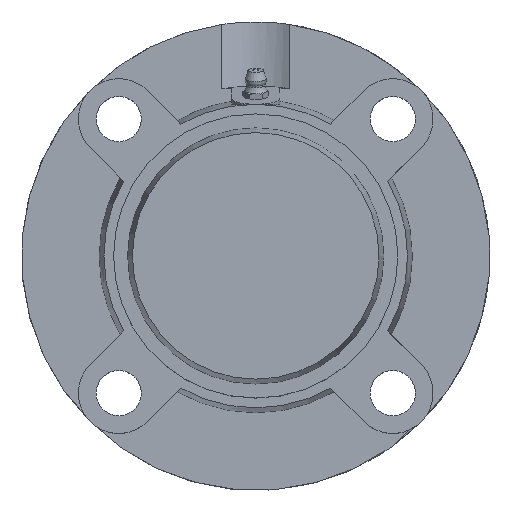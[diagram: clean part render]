
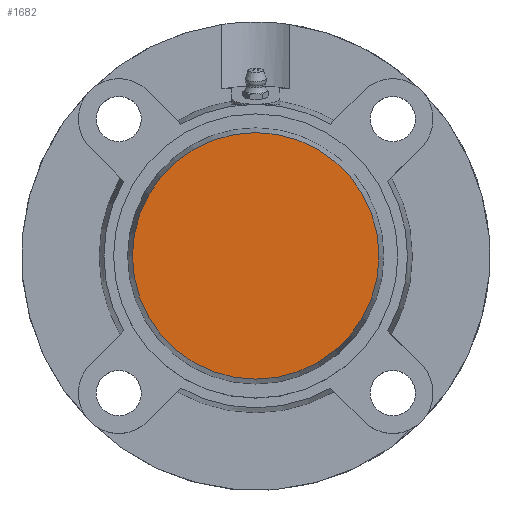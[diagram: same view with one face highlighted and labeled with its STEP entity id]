
A CAD part, top view. The second image highlights one B-rep face of the part: STEP entity #1682.
In plain terms, the highlighted planar face has unit normal (0, 0, 1).
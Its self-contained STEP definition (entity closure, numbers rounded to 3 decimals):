
#1666=CARTESIAN_POINT('',(0.0,19.082,30.));
#1667=DIRECTION('',(0.0,0.0,1.0));
#1668=DIRECTION('',(1.0,0.0,0.0));
#1669=AXIS2_PLACEMENT_3D('',#1666,#1667,#1668);
#1670=PLANE('',#1669);
#1671=CARTESIAN_POINT('',(0.0,38.164,30.));
#1672=VERTEX_POINT('',#1671);
#1673=CARTESIAN_POINT('',(0.0,0.,30.));
#1674=DIRECTION('',(0.0,0.0,-1.0));
#1675=DIRECTION('',(0.0,1.0,0.0));
#1676=AXIS2_PLACEMENT_3D('',#1673,#1674,#1675);
#1677=CIRCLE('',#1676,38.164);
#1678=EDGE_CURVE('',#1672,#1672,#1677,.T.);
#1679=ORIENTED_EDGE('',*,*,#1678,.F.);
#1680=EDGE_LOOP('',(#1679));
#1681=FACE_OUTER_BOUND('',#1680,.T.);
#1682=ADVANCED_FACE('',(#1681),#1670,.T.);
